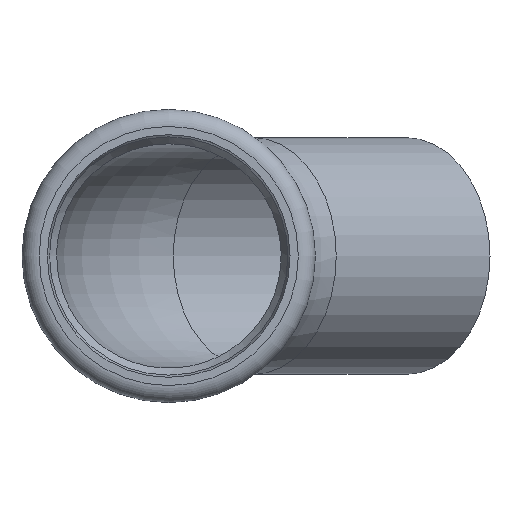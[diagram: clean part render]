
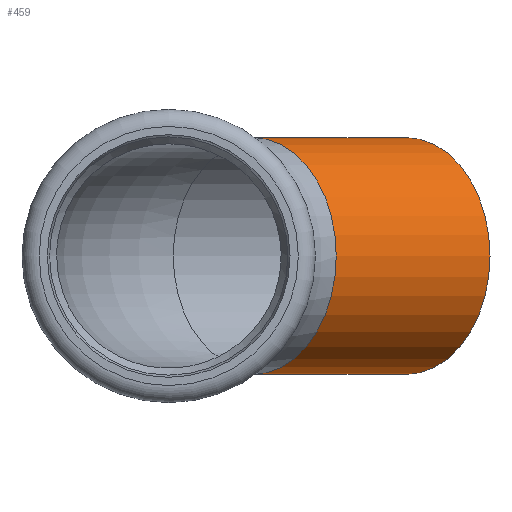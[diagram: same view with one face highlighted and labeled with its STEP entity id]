
A CAD part, left-side view. The second image highlights one B-rep face of the part: STEP entity #459.
In plain terms, the highlighted cylindrical face has radius 38.05 mm (diameter 76.1 mm), a full revolution.
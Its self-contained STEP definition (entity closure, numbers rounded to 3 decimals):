
#432=CARTESIAN_POINT('',(65.054,-26.946,0.0));
#433=DIRECTION('',(0.707,-0.707,0.0));
#434=DIRECTION('',(-0.707,-0.707,0.0));
#435=AXIS2_PLACEMENT_3D('',#432,#433,#434);
#436=CYLINDRICAL_SURFACE('',#435,38.05);
#437=CARTESIAN_POINT('',(141.381,-49.462,0.));
#438=VERTEX_POINT('',#437);
#439=CARTESIAN_POINT('',(114.475,-76.368,0.0));
#440=DIRECTION('',(-0.707,0.707,0.0));
#441=DIRECTION('',(-0.707,-0.707,0.0));
#442=AXIS2_PLACEMENT_3D('',#439,#440,#441);
#443=CIRCLE('',#442,38.05);
#444=EDGE_CURVE('',#438,#438,#443,.T.);
#445=ORIENTED_EDGE('',*,*,#444,.T.);
#446=EDGE_LOOP('',(#445));
#447=FACE_OUTER_BOUND('',#446,.T.);
#448=CARTESIAN_POINT('',(91.959,-0.041,0.));
#449=VERTEX_POINT('',#448);
#450=CARTESIAN_POINT('',(65.054,-26.946,0.0));
#451=DIRECTION('',(-0.707,0.707,0.0));
#452=DIRECTION('',(-0.707,-0.707,0.0));
#453=AXIS2_PLACEMENT_3D('',#450,#451,#452);
#454=CIRCLE('',#453,38.05);
#455=EDGE_CURVE('',#449,#449,#454,.T.);
#456=ORIENTED_EDGE('',*,*,#455,.F.);
#457=EDGE_LOOP('',(#456));
#458=FACE_BOUND('',#457,.T.);
#459=ADVANCED_FACE('',(#447,#458),#436,.T.);
